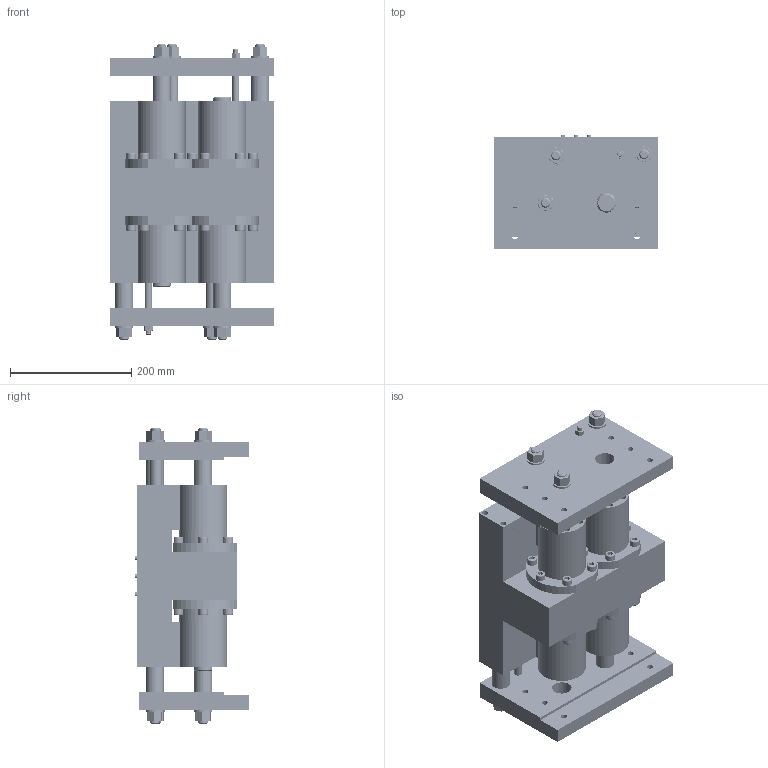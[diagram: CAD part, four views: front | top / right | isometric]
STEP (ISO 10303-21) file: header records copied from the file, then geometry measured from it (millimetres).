
FILE_DESCRIPTION (( 'STEP AP214' ), '1' );
FILE_NAME ('GST 80 OPEN.STEP', '2006-12-13T14:45:28', ( ' ' ), ( ' ' ), 'SwSTEP 2.0', 'SolidWorks 2004104', '' );
FILE_SCHEMA (( 'AUTOMOTIVE_DESIGN' ));
Length unit declared in the file: millimetre
Products named in the file (39): Joint torique D15x3_Défaut; Bague IGUS WSM2023-15_Défaut; AU0011_Défaut; AU0019 Ressort_Défaut; Joint torique D82x2_Défaut; Joint quadrilobe D70_Défaut; Joint racleur D12_Défaut; Joint de tige OJUI 30x45x10_Défaut; Joint racleur D30_Défaut; Joint torique D30x3_Défaut; Socket Head Cap Screw_ISO_ISO 4762 M4 x 6 --- 6N_Défaut; Socket Head Cap Screw_ISO_ISO 4762 M4 x 10 --- 10N_Défaut; Socket Head Cap Screw_ISO_ISO 4762 M10 x 25 --- 25N_Défaut; Hex Nut GradeC_ISO_Hexagon Nut ISO - 4034 - M16 - N_Défaut; Plain Washer Normal Grade A_ISO_Washer ISO 7089 - 16_Défaut; AU0020 Couvercle_Défaut; Socket Head Cap Screw_ISO_ISO 4762 M6 x 35 --- 24N_Défaut; GST 80 OPEN; AU0012_Défaut; AU0003_Défaut; AU0002_Défaut; AU0001_Défaut; AU0008_Défaut; AU0007_Défaut; AU0005_Défaut; AU0006_Défaut; AU0010_Défaut; MirrorPart2_Défaut; AU0009_Défaut; Hex Nut GradeC_ISO_Hexagon Nut ISO - 4034 - M8 - N_Défaut; Bague IGUS WSM3034-40_Défaut; AU0013_Défaut; AU0015_Défaut; Roulement 32x15x9_Défaut; AU0014_Défaut; Engrenage YG225_Défaut; AU0018_Défaut; AU0017_Défaut; AU0016_Défaut
Assembly tree (160 placements, depth 2):
  GST 80 OPEN
    Hex Nut GradeC_ISO_Hexagon Nut ISO - 4034 - M16 - N_Défaut  x6
    Socket Head Cap Screw_ISO_ISO 4762 M6 x 35 --- 24N_Défaut  x39
    Socket Head Cap Screw_ISO_ISO 4762 M10 x 25 --- 25N_Défaut  x22
    Joint de tige OJUI 30x45x10_Défaut  x8
    Joint racleur D12_Défaut  x2
    Joint torique D15x3_Défaut  x4
    AU0011_Défaut  x4
    Bague IGUS WSM2023-15_Défaut  x4
    AU0014_Défaut
    AU0010_Défaut  x4
    Joint torique D30x3_Défaut  x2
    Joint racleur D30_Défaut  x6
    AU0013_Défaut
    MirrorPart2_Défaut  x2
    AU0005_Défaut  x2
    Bague IGUS WSM3034-40_Défaut  x8
    AU0020 Couvercle_Défaut
    Joint quadrilobe D70_Défaut  x2
    AU0003_Défaut  x2
    Socket Head Cap Screw_ISO_ISO 4762 M4 x 10 --- 10N_Défaut  x4
    AU0019 Ressort_Défaut  x2
    Joint torique D82x2_Défaut  x4
    AU0018_Défaut  x2
    Plain Washer Normal Grade A_ISO_Washer ISO 7089 - 16_Défaut  x6
    AU0006_Défaut  x2
    AU0012_Défaut  x2
    AU0009_Défaut  x2
    AU0001_Défaut
    Roulement 32x15x9_Défaut  x2
    Hex Nut GradeC_ISO_Hexagon Nut ISO - 4034 - M8 - N_Défaut  x2
    AU0002_Défaut  x2
    AU0008_Défaut  x2
    AU0017_Défaut
    AU0016_Défaut
    Engrenage YG225_Défaut
    AU0007_Défaut  x2
    Socket Head Cap Screw_ISO_ISO 4762 M4 x 6 --- 6N_Défaut
    AU0015_Défaut
Bounding box: 270 x 187 x 486.6 mm (x, y, z)
Volume: 11242719.1 mm3; surface area: 1882491.5 mm2
Topology: 160 solids, 160 shells, 4289 faces, 9862 edges, 5968 vertices
Faces by surface type: cylinder 1758, plane 1483, cone 740, torus 304, bspline 4
Entity records: 79213 total; most frequent: CARTESIAN_POINT 46879, DIRECTION 6920, ORIENTED_EDGE 5976, EDGE_CURVE 2988, AXIS2_PLACEMENT_3D 2852, VERTEX_POINT 1914, EDGE_LOOP 1666, CIRCLE 1380
